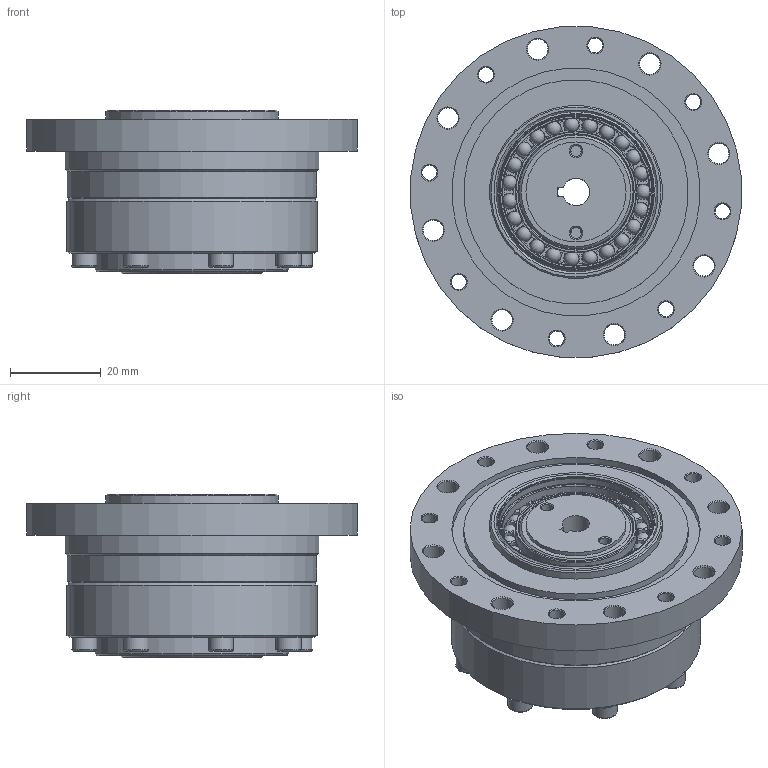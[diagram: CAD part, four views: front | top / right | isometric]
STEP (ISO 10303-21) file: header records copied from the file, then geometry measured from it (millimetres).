
FILE_DESCRIPTION(/* description */ (''),/* implementation_level */ '2;1');
FILE_NAME(/* name */ 'FSG-14-XX-U-I_孔径6__stp.prt.stp',/* time_stamp */ '2025-02-05T09:36:33+08:00',/* author */ (''),/* organization */ (''),/* preprocessor_version */ 'ST-DEVELOPER v16.7',/* originating_system */ 'SIEMENS PLM Software NX 12.0',/* authorisation */ '');
FILE_SCHEMA (('AUTOMOTIVE_DESIGN { 1 0 10303 214 3 1 1 1 }'));
Length unit declared in the file: millimetre
Products named in the file (15): EB253406-14KCH-46288; EB253406-14KCH-04289; EB253406-14KCH-02290; EB253406-14KCH-01291; TC-31.5x40x4292; GB-T70.1-2000,M4x12293; GB-T70.1-2000,M3x16294; O型密封圈40.6-38-0.75295; 柔轮垫块LSS-14296; 发生器FSG-14-XXDL直径6_stp297; 刚轮FSG-14_stp298; 柔轮FSG-14_stp299; EB253406-14KCH_stp300; 交叉轴承LSS-14301; FSG-14-XX-U-I_孔径6__stp
Assembly tree (26 placements, depth 3):
  FSG-14-XX-U-I_孔径6__stp
    柔轮FSG-14_stp299
    刚轮FSG-14_stp298
    发生器FSG-14-XXDL直径6_stp297
    柔轮垫块LSS-14296
    交叉轴承LSS-14301
      TC-31.5x40x4292
    EB253406-14KCH_stp300
      EB253406-14KCH-01291
      EB253406-14KCH-02290
      EB253406-14KCH-04289
      EB253406-14KCH-46288
    O型密封圈40.6-38-0.75295
    GB-T70.1-2000,M3x16294  x8
    GB-T70.1-2000,M4x12293  x6
Bounding box: 72.72 x 72.72 x 36 mm (x, y, z)
Volume: 67437.8 mm3; surface area: 49621.7 mm2
Topology: 48 solids, 48 shells, 894 faces, 1960 edges, 1151 vertices
Faces by surface type: plane 308, cone 268, cylinder 197, torus 97, sphere 23, bspline 1
Full cylindrical faces by diameter (mm): 1.6 x2, 2.5 x10, 2.874 x8, 3.3 x16, 3.5 x8, 3.7 x12, 3.838 x6, 4.3 x6, 4.5 x14, 5.5 x8, 7 x6, 8 x1, 11 x3, 14 x1, 22 x1, 23 x1, 23.8 x1, 24.5 x1, 25.07 x2, 26.695 x2, 27.5 x1, 28.4 x1, 29 x1, 29.8 x1, 31 x1, 31.5 x3, 32.157 x1, 32.401 x2, 33.896 x2, 34.588 x1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
Entity records: 18242 total; most frequent: CARTESIAN_POINT 4318, DIRECTION 2815, ORIENTED_EDGE 2114, AXIS2_PLACEMENT_3D 1276, EDGE_CURVE 1057, EDGE_LOOP 880, VERTEX_POINT 774, CIRCLE 680
